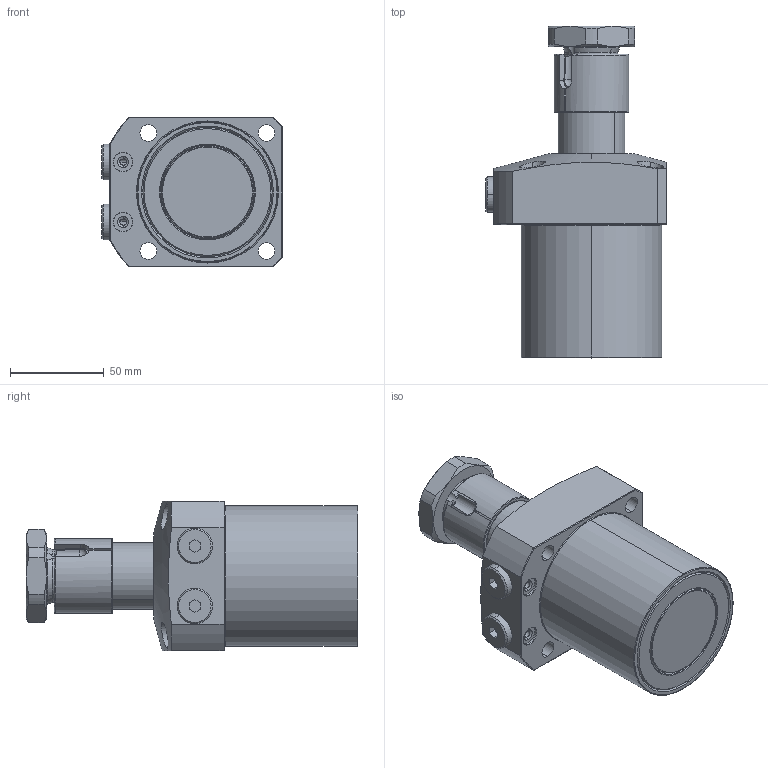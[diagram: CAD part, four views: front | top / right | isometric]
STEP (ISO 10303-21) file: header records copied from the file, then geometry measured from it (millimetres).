
FILE_DESCRIPTION(/* description */ (''),/* implementation_level */ '2;1');
FILE_NAME(/* name */ 'KTRC75-RN45.stp',/* time_stamp */ '2022-11-18T10:13:02+08:00',/* author */ (''),/* organization */ (''),/* preprocessor_version */ 'ST-DEVELOPER v16.7',/* originating_system */ 'SIEMENS PLM Software NX 12.0',/* authorisation */ '');
FILE_SCHEMA (('AP203_CONFIGURATION_CONTROLLED_3D_DESIGN_OF_MECHANICAL_PARTS_AND_ASSEMBLIES_MIM_LF { 1 0 10303 403 2 1 2}'));
Length unit declared in the file: millimetre
Products named in the file (7): KTRC75-RN45-06; KTRC75-RN45-04; KTRC75-RN45-03; KTRC75-RN45-01; KTRC75-RN45-02; KTRC75-RN45-05; LHA0750-CL-Y45_step
Assembly tree (7 placements, depth 2):
  LHA0750-CL-Y45_step
    KTRC75-RN45-05  x2
    KTRC75-RN45-02
    KTRC75-RN45-01
    KTRC75-RN45-03
    KTRC75-RN45-04
    KTRC75-RN45-06
Bounding box: 96.5 x 177 x 80 mm (x, y, z)
Volume: 634554.4 mm3; surface area: 76998.4 mm2
Topology: 7 solids, 7 shells, 238 faces, 559 edges, 349 vertices
Faces by surface type: cylinder 81, plane 80, cone 51, torus 24, sphere 2
Entity records: 7920 total; most frequent: CARTESIAN_POINT 1917, DIRECTION 1119, ORIENTED_EDGE 1058, EDGE_CURVE 529, AXIS2_PLACEMENT_3D 459, VERTEX_POINT 331, EDGE_LOOP 254, CIRCLE 226
